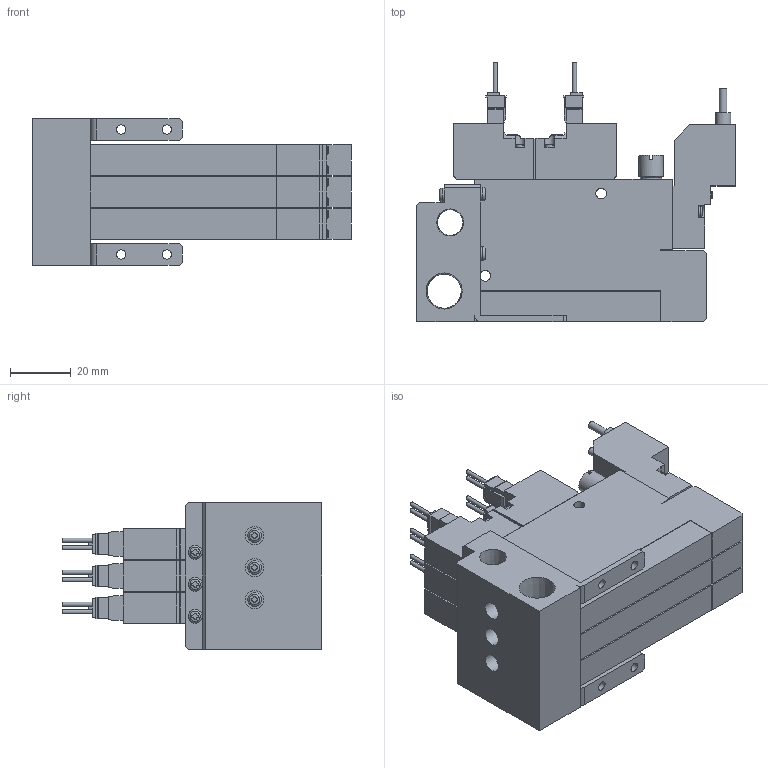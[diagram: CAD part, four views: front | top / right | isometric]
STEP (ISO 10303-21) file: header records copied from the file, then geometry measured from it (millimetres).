
FILE_DESCRIPTION(('STEP AP203'),'1');
FILE_NAME('V8C5SC303_3D.stp','2024-09-04T09:43:41',(' '),(' '),'Spatial InterOp 3D',' ',' ');
FILE_SCHEMA(('CONFIG_CONTROL_DESIGN'));
Length unit declared in the file: millimetre
Products named in the file (5): BSC1M※※V8C5SC303; Solenoid valve S; Pressure Sensor V8; Unit-C; BaseMC30R
Assembly tree (10 placements, depth 2):
  BSC1M※※V8C5SC303
    Solenoid valve S  x3
    Pressure Sensor V8  x3
    Unit-C  x3
    BaseMC30R
Bounding box: 104.5 x 85.05 x 48 mm (x, y, z)
Volume: 177131.9 mm3; surface area: 62652 mm2
Topology: 10 solids, 10 shells, 1242 faces, 3330 edges, 2202 vertices
Faces by surface type: plane 947, cylinder 226, cone 31, torus 22, sphere 16
Full cylindrical faces by diameter (mm): 1.4 x12, 2.5 x15, 3 x16, 3.5 x18, 4 x3, 4.134 x6, 4.5 x10, 5 x3, 5.5 x3, 6 x3, 7 x6, 8 x3, 8.422 x1, 11.233 x1
Entity records: 17117 total; most frequent: CARTESIAN_POINT 3757, DIRECTION 2642, ORIENTED_EDGE 2612, EDGE_CURVE 1306, LINE 918, VECTOR 918, VERTEX_POINT 916, AXIS2_PLACEMENT_3D 862
